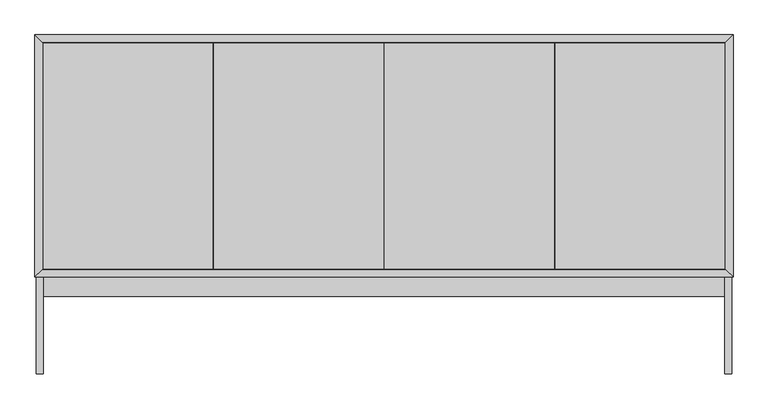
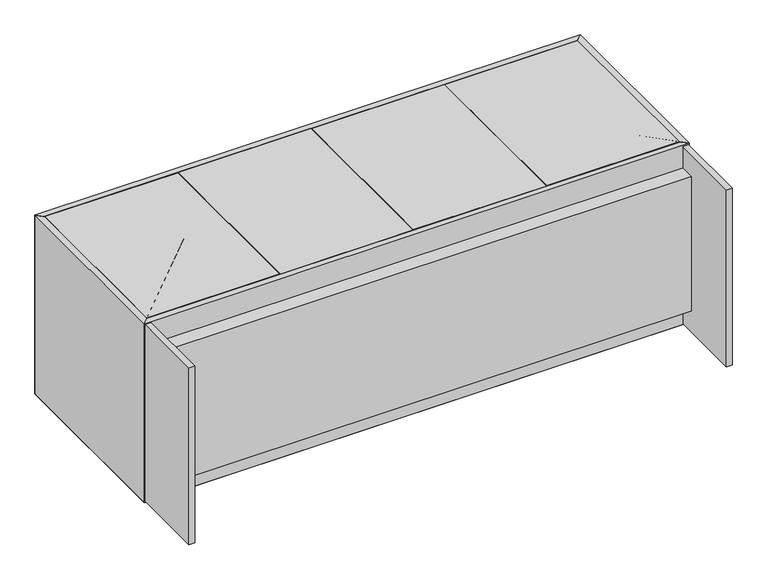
"""IFC4 building model written with IfcOpenShell, lengths in millimetres: proxy geometry, ELEVATE^CREDENZA 35h_25x72 4 DOOR-PARTS SOLID."""

from ifc_helpers import new_model, si_unit, frame, origin, place, context, project, spatial, polyline, outline, extrude, faceted_brep, source, transform, mapped, element, save


def generic_models_c5994eb2(model_context):
    return source(origin(), model_context, "Body", "SolidModel", [
        faceted_brep([(0.0, 0.0, 0.0), (19.05, 19.05, 19.05), (1809.75, 19.05, 19.05), (1828.8, 0.0, 0.0), (19.05, 19.05, 635.0), (1809.75, 19.05, 635.0), (0.0, 0.0, 635.0), (1828.8, 0.0, 635.0)], [[[0, 1, 2, 3]], [[2, 1, 4, 5]], [[1, 0, 6, 4]], [[3, 2, 5, 7]], [[0, 3, 7, 6]], [[6, 7, 5, 4]]]),
        faceted_brep([(1828.8, 635.0, 0.0), (1511.3, 317.5, 317.5), (1828.8, 0.0, 0.0), (0.0, 635.0, 0.0), (317.5, 317.5, 317.5), (0.0, 0.0, 0.0)], [[[0, 1, 2]], [[1, 0, 3, 4]], [[1, 4, 5, 2]], [[5, 3, 0, 2]], [[4, 3, 5]]]),
        extrude(outline(polyline([(1362.6703125, 613.56875), (1807.36875, 613.56875), (1807.36875, 21.43125), (1362.6703125, 21.43125), (1362.6703125, 613.56875)])), frame((0.0, 0.0, 615.95), z_axis=(0.0, 0.0, 1.0), x_axis=(1.0, 0.0, 0.0)), (0.0, 0.0, 1.0), 19.05),
        extrude(outline(polyline([(21.43125, 613.56875), (466.1296875, 613.56875), (466.1296875, 21.43125), (21.43125, 21.43125), (21.43125, 613.56875)])), frame((0.0, 0.0, 615.95), z_axis=(0.0, 0.0, 1.0), x_axis=(1.0, 0.0, 0.0)), (0.0, 0.0, 1.0), 19.05),
        extrude(outline(polyline([(915.590625, 613.56875), (1360.2890625, 613.56875), (1360.2890625, 21.43125), (915.590625, 21.43125), (915.590625, 613.56875)])), frame((0.0, 0.0, 615.95), z_axis=(0.0, 0.0, 1.0), x_axis=(1.0, 0.0, 0.0)), (0.0, 0.0, 1.0), 19.05),
        extrude(outline(polyline([(468.5109375, 613.56875), (913.209375, 613.56875), (913.209375, 21.43125), (468.5109375, 21.43125), (468.5109375, 613.56875)])), frame((0.0, 0.0, 615.95), z_axis=(0.0, 0.0, 1.0), x_axis=(1.0, 0.0, 0.0)), (0.0, 0.0, 1.0), 19.05),
        faceted_brep([(1806.575, -254.0, 3.175), (1806.575, -254.0, 631.825), (1806.575, 0.0, 631.825), (1806.575, 0.0, 555.625), (1806.575, -50.8, 555.625), (1806.575, -50.8, 79.375), (1806.575, 0.0, 79.375), (1806.575, 0.0, 3.175), (1825.625, -254.0, 631.825), (1825.625, -254.0, 3.175), (1825.625, 0.0, 3.175), (1825.625, 0.0, 631.825), (3.175, -254.0, 3.175), (3.175, -254.0, 631.825), (3.175, 0.0, 631.825), (3.175, 0.0, 3.175), (22.225, -254.0, 631.825), (22.225, -254.0, 3.175), (22.225, 0.0, 3.175), (22.225, 0.0, 79.375), (22.225, -50.8, 79.375), (22.225, -50.8, 555.625), (22.225, 0.0, 555.625), (22.225, 0.0, 631.825)], [[[0, 1, 2, 3, 4, 5, 6, 7]], [[8, 9, 10, 11]], [[7, 10, 9, 0]], [[11, 2, 1, 8]], [[12, 13, 14, 15]], [[16, 17, 18, 19, 20, 21, 22, 23]], [[23, 14, 13, 16]], [[4, 21, 20, 5]], [[1, 0, 9, 8]], [[15, 18, 17, 12]], [[13, 12, 17, 16]], [[22, 21, 4, 3]], [[22, 3, 2, 11, 10, 7, 6, 19, 18, 15, 14, 23]], [[20, 19, 6, 5]]]),
        extrude(outline(polyline([(923.925, 19.05), (904.875, 19.05), (904.875, 615.95), (923.925, 615.95), (923.925, 19.05)])), frame((0.0, 0.0, 19.05), z_axis=(0.0, 0.0, 1.0), x_axis=(1.0, 0.0, 0.0)), (0.0, 0.0, 1.0), 593.725),
        faceted_brep([(1828.8, 635.0, 635.0), (1511.3, 317.5, 635.0), (1828.8, 0.0, 635.0), (1828.8, 635.0, 0.0), (1511.3, 317.5, 317.5), (1828.8, 0.0, 0.0)], [[[0, 1, 2]], [[1, 0, 3, 4]], [[4, 3, 5]], [[5, 3, 0, 2]], [[1, 4, 5, 2]]]),
        faceted_brep([(1828.8, 635.0, 0.0), (1809.75, 615.95, 19.05), (19.05, 615.95, 19.05), (0.0, 635.0, 0.0), (19.05, 615.95, 635.0), (0.0, 635.0, 635.0), (1809.75, 615.95, 635.0), (1828.8, 635.0, 635.0)], [[[0, 1, 2, 3]], [[3, 2, 4, 5]], [[2, 1, 6, 4]], [[0, 3, 5, 7]], [[1, 0, 7, 6]], [[6, 7, 5, 4]]]),
        faceted_brep([(0.0, 0.0, 635.0), (317.5, 317.5, 635.0), (0.0, 635.0, 635.0), (0.0, 0.0, 0.0), (317.5, 317.5, 317.5), (0.0, 635.0, 0.0)], [[[0, 1, 2]], [[1, 0, 3, 4]], [[4, 3, 5]], [[1, 4, 5, 2]], [[5, 3, 0, 2]]]),
    ])


if __name__ == "__main__":
    model = new_model("IFC4")
    model_context = context("Model", 3, world=origin())
    ifc_project = project(units=[si_unit("LENGTHUNIT", "METRE", prefix="MILLI")], contexts=[model_context])
    site = spatial("IfcSite", under=ifc_project)
    building = spatial("IfcBuilding", under=site)
    placement = place(None, origin())
    generic_models_shape = generic_models_c5994eb2(model_context)
    element("IfcBuildingElementProxy", 1, Name="ELEVATE^CREDENZA 35h_25x72 4 DOOR-PARTS SOLID", ObjectType="ELEVATE^CREDENZA 35h_25x72 4 DOOR-PARTS SOLID", at=placement, inside=building, context=model_context, shape_type="MappedRepresentation", body=[
        mapped(generic_models_shape, transform((0.0, 0.0, 0.0), x_axis=(1.0, 0.0, 0.0), y_axis=(0.0, 1.0, 0.0), z_axis=(0.0, 0.0, 1.0))),
    ])
    save(model, "model.ifc")
